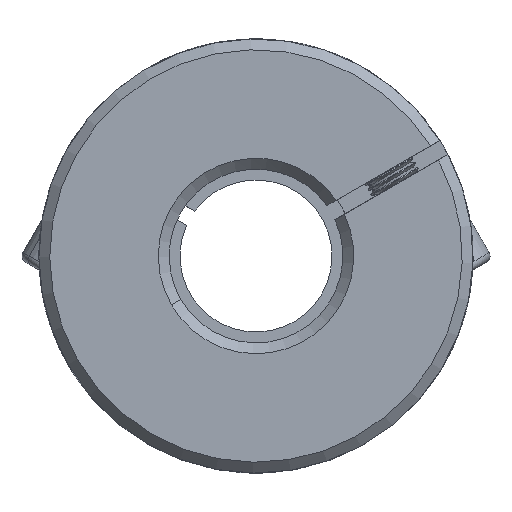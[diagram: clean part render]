
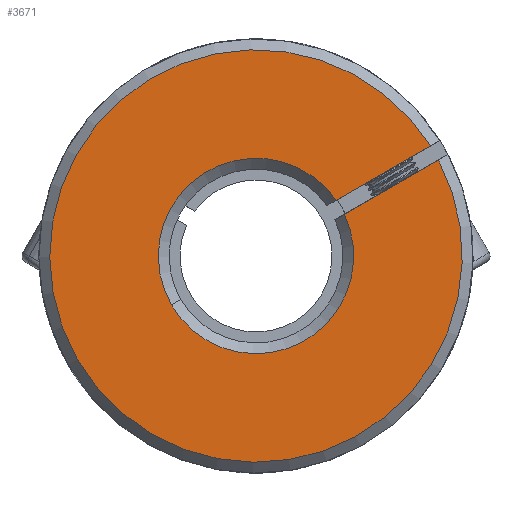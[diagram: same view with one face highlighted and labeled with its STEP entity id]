
A CAD part, front view. The second image highlights one B-rep face of the part: STEP entity #3671.
In plain terms, the highlighted planar face has unit normal (0, -1, 0).
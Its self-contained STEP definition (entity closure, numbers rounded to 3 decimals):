
#8 = CARTESIAN_POINT ( 'NONE',  ( 15.367, -31.239, 48.848 ) ) ;
#296 = DIRECTION ( 'NONE',  ( 0.5, 0., -0.866 ) ) ;
#722 = VECTOR ( 'NONE', #1737, 1000. ) ;
#834 = DIRECTION ( 'NONE',  ( 0., 1., 0. ) ) ;
#986 = DIRECTION ( 'NONE',  ( -0.866, 0., -0.5 ) ) ;
#1059 = LINE ( 'NONE', #1636, #722 ) ;
#1165 = EDGE_CURVE ( 'NONE', #8235, #5117, #1059, .T. ) ;
#1636 = CARTESIAN_POINT ( 'NONE',  ( 5.825, -31.239, 43.335 ) ) ;
#1737 = DIRECTION ( 'NONE',  ( 0.866, 0., 0.5 ) ) ;
#1807 = ORIENTED_EDGE ( 'NONE', *, *, #4659, .F. ) ;
#1891 = DIRECTION ( 'NONE',  ( 0.5, 0., -0.866 ) ) ;
#1940 = DIRECTION ( 'NONE',  ( 0.5, 0., -0.866 ) ) ;
#2371 = PLANE ( 'NONE',  #12546 ) ;
#2710 = VERTEX_POINT ( 'NONE', #10746 ) ;
#2970 = CARTESIAN_POINT ( 'NONE',  ( -1.447, -31.239, 40. ) ) ;
#3671 = ADVANCED_FACE ( 'NONE', ( #5685 ), #2371, .F. ) ;
#4104 = LINE ( 'NONE', #13982, #9951 ) ;
#4126 = EDGE_CURVE ( 'NONE', #4270, #5117, #10310, .T. ) ;
#4270 = VERTEX_POINT ( 'NONE', #6709 ) ;
#4626 = CIRCLE ( 'NONE', #6194, 9. ) ;
#4659 = EDGE_CURVE ( 'NONE', #4270, #5012, #4104, .T. ) ;
#5012 = VERTEX_POINT ( 'NONE', #11766 ) ;
#5117 = VERTEX_POINT ( 'NONE', #8 ) ;
#5685 = FACE_OUTER_BOUND ( 'NONE', #9969, .T. ) ;
#6104 = CARTESIAN_POINT ( 'NONE',  ( -1.447, -31.239, 40. ) ) ;
#6194 = AXIS2_PLACEMENT_3D ( 'NONE', #2970, #834, #1940 ) ;
#6568 = DIRECTION ( 'NONE',  ( 0., -1., 0. ) ) ;
#6586 = ORIENTED_EDGE ( 'NONE', *, *, #1165, .F. ) ;
#6709 = CARTESIAN_POINT ( 'NONE',  ( 14.616, -31.239, 50.147 ) ) ;
#7268 = ORIENTED_EDGE ( 'NONE', *, *, #4126, .T. ) ;
#7642 = CARTESIAN_POINT ( 'NONE',  ( -1.447, -31.239, 40. ) ) ;
#7705 = CARTESIAN_POINT ( 'NONE',  ( 52.98, -31.239, 45.743 ) ) ;
#7729 = CARTESIAN_POINT ( 'NONE',  ( 6.694, -31.239, 43.837 ) ) ;
#8235 = VERTEX_POINT ( 'NONE', #7729 ) ;
#8674 = CIRCLE ( 'NONE', #11351, 9. ) ;
#8809 = AXIS2_PLACEMENT_3D ( 'NONE', #7642, #6568, #11987 ) ;
#9951 = VECTOR ( 'NONE', #986, 1000. ) ;
#9969 = EDGE_LOOP ( 'NONE', ( #6586, #13038, #13194, #1807, #7268 ) ) ;
#10310 = CIRCLE ( 'NONE', #8809, 19. ) ;
#10441 = DIRECTION ( 'NONE',  ( 0., 1., 0. ) ) ;
#10746 = CARTESIAN_POINT ( 'NONE',  ( -9.24, -31.239, 35.498 ) ) ;
#10941 = DIRECTION ( 'NONE',  ( 0., 1., 0. ) ) ;
#11351 = AXIS2_PLACEMENT_3D ( 'NONE', #6104, #10441, #1891 ) ;
#11469 = EDGE_CURVE ( 'NONE', #8235, #2710, #8674, .T. ) ;
#11766 = CARTESIAN_POINT ( 'NONE',  ( 5.943, -31.239, 45.136 ) ) ;
#11987 = DIRECTION ( 'NONE',  ( 0.5, 0., -0.866 ) ) ;
#12546 = AXIS2_PLACEMENT_3D ( 'NONE', #7705, #10941, #296 ) ;
#13038 = ORIENTED_EDGE ( 'NONE', *, *, #11469, .T. ) ;
#13091 = EDGE_CURVE ( 'NONE', #2710, #5012, #4626, .T. ) ;
#13194 = ORIENTED_EDGE ( 'NONE', *, *, #13091, .T. ) ;
#13982 = CARTESIAN_POINT ( 'NONE',  ( 5.074, -31.239, 44.634 ) ) ;
